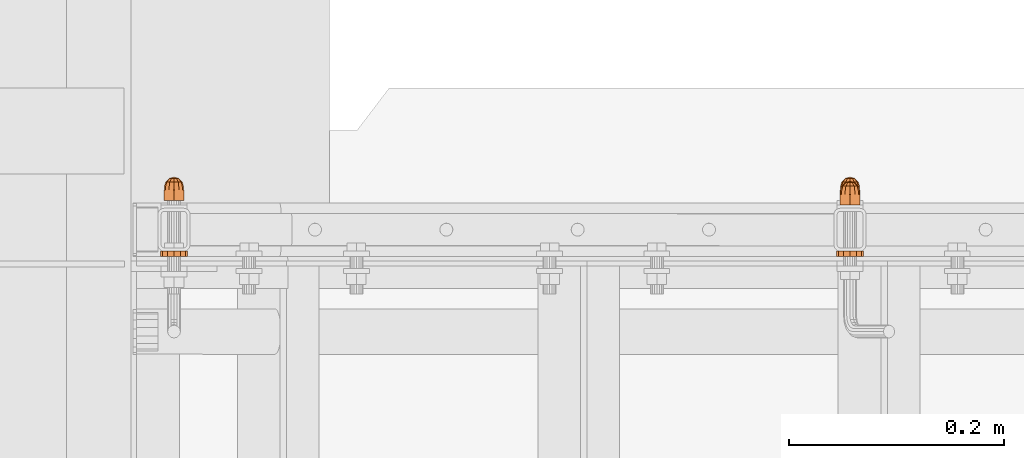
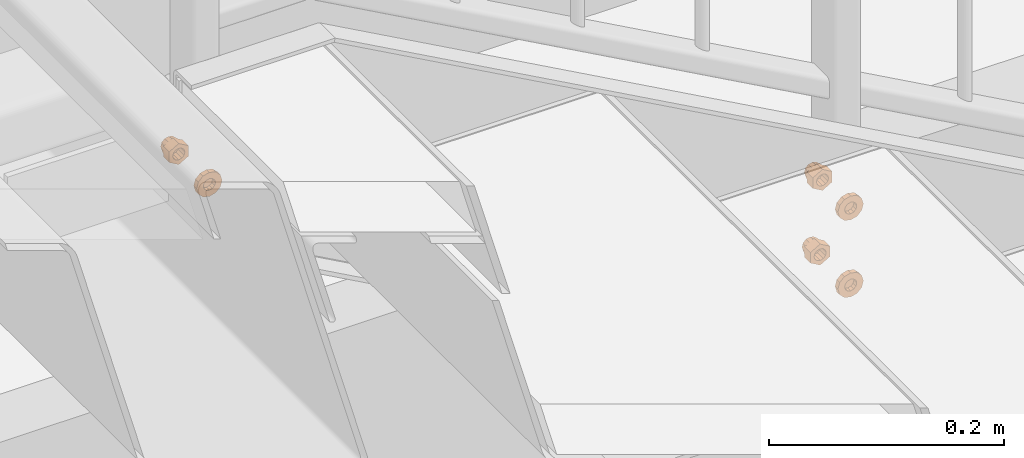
# One storey, part 104 of 116: 6 proxies.
"""IFC2X3 building model written with IfcOpenShell, lengths in millimetres."""

from ifc_helpers import new_model, entity, si_unit, converted_unit, origin_with_axes, place, context, project, spatial, faceted_brep, material, element, save


model = new_model("IFC2X3")

# Units and contexts
model_context = context("Model", 3, precision=1e-09, world=origin_with_axes())
ifc_project = project(units=[si_unit("LENGTHUNIT", "METRE", prefix="MILLI"), si_unit("AREAUNIT", "SQUARE_METRE"), si_unit("VOLUMEUNIT", "CUBIC_METRE"), converted_unit("PLANEANGLEUNIT", "DEGREE", entity("IfcPlaneAngleMeasure", 0.01745329), si_unit("PLANEANGLEUNIT", "RADIAN"), dimensions=[0, 0, 0, 0, 0, 0, 0])], contexts=[model_context])

# Site, building, storey
site_placement = place(None, origin_with_axes())
site = spatial("IfcSite", under=ifc_project, at=site_placement, Name="Site", CompositionType="ELEMENT")
building_placement = place(site_placement, origin_with_axes())
building = spatial("IfcBuilding", under=site, at=building_placement, Name="Struktur 1", CompositionType="ELEMENT")
storey_placement = place(building_placement, origin_with_axes())
storey = spatial("IfcBuildingStorey", under=building, at=storey_placement, Name="Default Storey", CompositionType="ELEMENT", Elevation=0.0)

# Proxies
ifc_material = material(Name="Kein")
proxy_1_placement = place(None, origin_with_axes())
element("IfcBuildingElementProxy", 1, at=proxy_1_placement, inside=storey, material=ifc_material, ObjectType="-", context=model_context, shape_type="Brep", body=[
    faceted_brep([(58891.049134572, 10488.357883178, -378.0), (58891.049134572, 10478.357883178, -378.0), (58891.852982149, 10478.357883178, -381.0), (58891.852982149, 10488.357883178, -381.0), (58894.049134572, 10478.357883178, -383.196152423), (58894.049134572, 10488.357883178, -383.196152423), (58891.852982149, 10488.357883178, -375.0), (58891.852982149, 10478.357883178, -375.0), (58887.569265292, 10478.357883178, -372.526794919), (58887.569265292, 10478.357883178, -383.473205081), (58897.049134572, 10478.357883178, -388.946410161), (58906.529003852, 10478.357883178, -383.473205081), (58906.529003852, 10478.357883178, -372.526794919), (58897.049134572, 10478.357883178, -367.053589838), (58894.049134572, 10478.357883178, -372.803847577), (58897.049134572, 10478.357883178, -372.0), (58900.049134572, 10478.357883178, -372.803847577), (58902.245286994, 10478.357883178, -375.0), (58903.049134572, 10478.357883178, -378.0), (58902.245286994, 10478.357883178, -381.0), (58900.049134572, 10478.357883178, -383.196152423), (58897.049134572, 10478.357883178, -384.0), (58887.569265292, 10488.357883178, -372.526794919), (58897.049134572, 10488.357883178, -367.053589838), (58906.529003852, 10488.357883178, -372.526794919), (58906.529003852, 10488.357883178, -383.473205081), (58897.049134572, 10488.357883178, -388.946410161), (58887.569265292, 10488.357883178, -383.473205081), (58894.049134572, 10488.357883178, -372.803847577), (58897.049134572, 10488.357883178, -384.0), (58897.049134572, 10488.357883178, -372.0), (58900.049134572, 10488.357883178, -383.196152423), (58900.049134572, 10488.357883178, -372.803847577), (58902.245286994, 10488.357883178, -381.0), (58902.245286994, 10488.357883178, -375.0), (58903.049134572, 10488.357883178, -378.0)], [[[0, 1, 2, 3]], [[3, 2, 4, 5]], [[1, 0, 6, 7]], [[8, 9, 10, 11, 12, 13], [7, 14, 15, 16, 17, 18, 19, 20, 21, 4, 2, 1]], [[22, 23, 24, 25, 26, 27]], [[7, 6, 28, 14]], [[22, 27, 9, 8]], [[5, 4, 21, 29]], [[10, 9, 27, 26]], [[14, 28, 30, 15]], [[23, 22, 8, 13]], [[29, 21, 20, 31]], [[11, 10, 26, 25]], [[15, 30, 32, 16]], [[24, 23, 13, 12]], [[31, 20, 19, 33]], [[25, 24, 12, 11]], [[16, 32, 34, 17]], [[33, 19, 18, 35]], [[17, 34, 35, 18]]]),
    faceted_brep([(58897.049134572, 10491.357883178, -369.0), (58897.049134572, 10488.357883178, -369.0), (58901.549134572, 10488.357883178, -370.205771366), (58901.549134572, 10491.357883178, -370.205771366), (58892.549134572, 10491.357883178, -370.205771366), (58892.549134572, 10488.357883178, -370.205771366), (58892.549134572, 10491.357883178, -385.794228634), (58889.254905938, 10491.357883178, -382.5), (58888.049134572, 10491.357883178, -378.0), (58889.254905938, 10491.357883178, -373.5), (58904.843363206, 10491.357883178, -373.5), (58906.049134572, 10491.357883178, -378.0), (58904.843363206, 10491.357883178, -382.5), (58901.549134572, 10491.357883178, -385.794228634), (58897.049134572, 10491.357883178, -387.0), (58901.549134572, 10488.357883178, -385.794228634), (58904.843363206, 10488.357883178, -382.5), (58906.049134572, 10488.357883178, -378.0), (58904.843363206, 10488.357883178, -373.5), (58889.254905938, 10488.357883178, -373.5), (58888.049134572, 10488.357883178, -378.0), (58889.254905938, 10488.357883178, -382.5), (58892.549134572, 10488.357883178, -385.794228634), (58897.049134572, 10488.357883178, -387.0)], [[[0, 1, 2, 3]], [[1, 0, 4, 5]], [[6, 7, 8, 9, 4, 0, 3, 10, 11, 12, 13, 14]], [[15, 16, 17, 18, 2, 1, 5, 19, 20, 21, 22, 23]], [[3, 2, 18, 10]], [[5, 4, 9, 19]], [[10, 18, 17, 11]], [[19, 9, 8, 20]], [[22, 6, 14, 23]], [[7, 21, 20, 8]], [[6, 22, 21, 7]], [[11, 17, 16, 12]], [[23, 14, 13, 15]], [[12, 16, 15, 13]]]),
    faceted_brep([(58890.299134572, 10495.857883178, -374.102885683), (58889.254905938, 10491.357883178, -373.5), (58892.549134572, 10491.357883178, -370.205771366), (58893.152020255, 10495.857883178, -371.25), (58901.549134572, 10491.357883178, -385.794228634), (58904.843363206, 10491.357883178, -382.5), (58906.049134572, 10491.357883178, -378.0), (58904.843363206, 10491.357883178, -373.5), (58901.549134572, 10491.357883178, -370.205771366), (58897.049134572, 10491.357883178, -369.0), (58888.049134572, 10491.357883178, -378.0), (58889.254905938, 10491.357883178, -382.5), (58892.549134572, 10491.357883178, -385.794228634), (58897.049134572, 10491.357883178, -387.0), (58897.049134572, 10495.857883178, -370.205771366), (58892.549134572, 10499.152111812, -378.0), (58889.254905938, 10495.857883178, -378.0), (58893.152020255, 10499.152111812, -375.75), (58900.946248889, 10495.857883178, -371.25), (58894.799134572, 10499.152111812, -374.102885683), (58893.152020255, 10499.152111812, -380.25), (58890.299134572, 10495.857883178, -381.897114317), (58897.049134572, 10499.152111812, -373.5), (58897.049134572, 10500.357883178, -378.0), (58894.799134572, 10499.152111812, -381.897114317), (58893.152020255, 10495.857883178, -384.75), (58897.049134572, 10495.857883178, -385.794228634), (58903.799134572, 10495.857883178, -374.102885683), (58899.299134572, 10499.152111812, -374.102885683), (58897.049134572, 10499.152111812, -382.5), (58900.946248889, 10495.857883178, -384.75), (58899.299134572, 10499.152111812, -381.897114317), (58904.843363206, 10495.857883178, -378.0), (58900.946248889, 10499.152111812, -375.75), (58903.799134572, 10495.857883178, -381.897114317), (58900.946248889, 10499.152111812, -380.25), (58901.549134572, 10499.152111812, -378.0)], [[[0, 1, 2, 3]], [[4, 5, 6, 7, 8, 9, 2, 1, 10, 11, 12, 13]], [[3, 2, 9, 14]], [[15, 16, 0, 17]], [[1, 0, 16, 10]], [[14, 9, 8, 18]], [[17, 0, 3, 19]], [[16, 15, 20, 21]], [[19, 3, 14, 22]], [[17, 23, 15]], [[24, 25, 21, 20]], [[15, 23, 20]], [[12, 25, 26, 13]], [[11, 21, 25, 12]], [[10, 16, 21, 11]], [[18, 8, 7, 27]], [[22, 14, 18, 28]], [[19, 23, 17]], [[29, 26, 25, 24]], [[20, 23, 24]], [[22, 23, 19]], [[13, 26, 30, 4]], [[26, 29, 31, 30]], [[24, 23, 29]], [[27, 7, 6, 32]], [[28, 18, 27, 33]], [[28, 23, 22]], [[29, 23, 31]], [[33, 23, 28]], [[4, 30, 34, 5]], [[30, 31, 35, 34]], [[31, 23, 35]], [[32, 6, 5, 34]], [[33, 27, 32, 36]], [[36, 23, 33]], [[35, 23, 36]], [[34, 35, 36, 32]]]),
])
proxy_2_placement = place(None, origin_with_axes())
element("IfcBuildingElementProxy", 2, at=proxy_2_placement, inside=storey, material=ifc_material, ObjectType="-", context=model_context, shape_type="Brep", body=[
    faceted_brep([(58891.049134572, 10492.357883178, -458.0), (58891.049134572, 10482.357883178, -458.0), (58891.852982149, 10482.357883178, -461.0), (58891.852982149, 10492.357883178, -461.0), (58894.049134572, 10482.357883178, -463.196152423), (58894.049134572, 10492.357883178, -463.196152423), (58891.852982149, 10492.357883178, -455.0), (58891.852982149, 10482.357883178, -455.0), (58887.569265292, 10482.357883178, -452.526794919), (58887.569265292, 10482.357883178, -463.473205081), (58897.049134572, 10482.357883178, -468.946410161), (58906.529003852, 10482.357883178, -463.473205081), (58906.529003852, 10482.357883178, -452.526794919), (58897.049134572, 10482.357883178, -447.053589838), (58894.049134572, 10482.357883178, -452.803847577), (58897.049134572, 10482.357883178, -452.0), (58900.049134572, 10482.357883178, -452.803847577), (58902.245286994, 10482.357883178, -455.0), (58903.049134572, 10482.357883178, -458.0), (58902.245286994, 10482.357883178, -461.0), (58900.049134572, 10482.357883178, -463.196152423), (58897.049134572, 10482.357883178, -464.0), (58887.569265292, 10492.357883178, -452.526794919), (58897.049134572, 10492.357883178, -447.053589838), (58906.529003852, 10492.357883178, -452.526794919), (58906.529003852, 10492.357883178, -463.473205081), (58897.049134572, 10492.357883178, -468.946410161), (58887.569265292, 10492.357883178, -463.473205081), (58894.049134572, 10492.357883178, -452.803847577), (58897.049134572, 10492.357883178, -464.0), (58897.049134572, 10492.357883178, -452.0), (58900.049134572, 10492.357883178, -463.196152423), (58900.049134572, 10492.357883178, -452.803847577), (58902.245286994, 10492.357883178, -461.0), (58902.245286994, 10492.357883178, -455.0), (58903.049134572, 10492.357883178, -458.0)], [[[0, 1, 2, 3]], [[3, 2, 4, 5]], [[1, 0, 6, 7]], [[8, 9, 10, 11, 12, 13], [7, 14, 15, 16, 17, 18, 19, 20, 21, 4, 2, 1]], [[22, 23, 24, 25, 26, 27]], [[7, 6, 28, 14]], [[22, 27, 9, 8]], [[5, 4, 21, 29]], [[10, 9, 27, 26]], [[14, 28, 30, 15]], [[23, 22, 8, 13]], [[29, 21, 20, 31]], [[11, 10, 26, 25]], [[15, 30, 32, 16]], [[24, 23, 13, 12]], [[31, 20, 19, 33]], [[25, 24, 12, 11]], [[16, 32, 34, 17]], [[33, 19, 18, 35]], [[17, 34, 35, 18]]]),
    faceted_brep([(58897.049134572, 10495.357883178, -449.0), (58897.049134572, 10492.357883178, -449.0), (58901.549134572, 10492.357883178, -450.205771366), (58901.549134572, 10495.357883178, -450.205771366), (58892.549134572, 10495.357883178, -450.205771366), (58892.549134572, 10492.357883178, -450.205771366), (58892.549134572, 10495.357883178, -465.794228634), (58889.254905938, 10495.357883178, -462.5), (58888.049134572, 10495.357883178, -458.0), (58889.254905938, 10495.357883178, -453.5), (58904.843363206, 10495.357883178, -453.5), (58906.049134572, 10495.357883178, -458.0), (58904.843363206, 10495.357883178, -462.5), (58901.549134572, 10495.357883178, -465.794228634), (58897.049134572, 10495.357883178, -467.0), (58901.549134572, 10492.357883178, -465.794228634), (58904.843363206, 10492.357883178, -462.5), (58906.049134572, 10492.357883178, -458.0), (58904.843363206, 10492.357883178, -453.5), (58889.254905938, 10492.357883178, -453.5), (58888.049134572, 10492.357883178, -458.0), (58889.254905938, 10492.357883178, -462.5), (58892.549134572, 10492.357883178, -465.794228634), (58897.049134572, 10492.357883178, -467.0)], [[[0, 1, 2, 3]], [[1, 0, 4, 5]], [[6, 7, 8, 9, 4, 0, 3, 10, 11, 12, 13, 14]], [[15, 16, 17, 18, 2, 1, 5, 19, 20, 21, 22, 23]], [[3, 2, 18, 10]], [[5, 4, 9, 19]], [[10, 18, 17, 11]], [[19, 9, 8, 20]], [[22, 6, 14, 23]], [[7, 21, 20, 8]], [[6, 22, 21, 7]], [[11, 17, 16, 12]], [[23, 14, 13, 15]], [[12, 16, 15, 13]]]),
    faceted_brep([(58890.299134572, 10499.857883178, -454.102885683), (58889.254905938, 10495.357883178, -453.5), (58892.549134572, 10495.357883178, -450.205771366), (58893.152020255, 10499.857883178, -451.25), (58901.549134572, 10495.357883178, -465.794228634), (58904.843363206, 10495.357883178, -462.5), (58906.049134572, 10495.357883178, -458.0), (58904.843363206, 10495.357883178, -453.5), (58901.549134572, 10495.357883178, -450.205771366), (58897.049134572, 10495.357883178, -449.0), (58888.049134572, 10495.357883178, -458.0), (58889.254905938, 10495.357883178, -462.5), (58892.549134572, 10495.357883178, -465.794228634), (58897.049134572, 10495.357883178, -467.0), (58897.049134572, 10499.857883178, -450.205771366), (58892.549134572, 10503.152111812, -458.0), (58889.254905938, 10499.857883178, -458.0), (58893.152020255, 10503.152111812, -455.75), (58900.946248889, 10499.857883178, -451.25), (58894.799134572, 10503.152111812, -454.102885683), (58893.152020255, 10503.152111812, -460.25), (58890.299134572, 10499.857883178, -461.897114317), (58897.049134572, 10503.152111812, -453.5), (58897.049134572, 10504.357883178, -458.0), (58894.799134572, 10503.152111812, -461.897114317), (58893.152020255, 10499.857883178, -464.75), (58897.049134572, 10499.857883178, -465.794228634), (58903.799134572, 10499.857883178, -454.102885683), (58899.299134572, 10503.152111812, -454.102885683), (58897.049134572, 10503.152111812, -462.5), (58900.946248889, 10499.857883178, -464.75), (58899.299134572, 10503.152111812, -461.897114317), (58904.843363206, 10499.857883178, -458.0), (58900.946248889, 10503.152111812, -455.75), (58903.799134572, 10499.857883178, -461.897114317), (58900.946248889, 10503.152111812, -460.25), (58901.549134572, 10503.152111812, -458.0)], [[[0, 1, 2, 3]], [[4, 5, 6, 7, 8, 9, 2, 1, 10, 11, 12, 13]], [[3, 2, 9, 14]], [[15, 16, 0, 17]], [[1, 0, 16, 10]], [[14, 9, 8, 18]], [[17, 0, 3, 19]], [[16, 15, 20, 21]], [[19, 3, 14, 22]], [[17, 23, 15]], [[24, 25, 21, 20]], [[15, 23, 20]], [[12, 25, 26, 13]], [[11, 21, 25, 12]], [[10, 16, 21, 11]], [[18, 8, 7, 27]], [[22, 14, 18, 28]], [[19, 23, 17]], [[29, 26, 25, 24]], [[20, 23, 24]], [[22, 23, 19]], [[13, 26, 30, 4]], [[26, 29, 31, 30]], [[24, 23, 29]], [[27, 7, 6, 32]], [[28, 18, 27, 33]], [[28, 23, 22]], [[29, 23, 31]], [[33, 23, 28]], [[4, 30, 34, 5]], [[30, 31, 35, 34]], [[31, 23, 35]], [[32, 6, 5, 34]], [[33, 27, 32, 36]], [[36, 23, 33]], [[35, 23, 36]], [[34, 35, 36, 32]]]),
])
proxy_3_placement = place(None, origin_with_axes())
element("IfcBuildingElementProxy", 3, at=proxy_3_placement, inside=storey, material=ifc_material, ObjectType="-", context=model_context, shape_type="Brep", body=[
    faceted_brep([(58894.049134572, 10435.357883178, -463.196152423), (58897.049134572, 10435.357883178, -464.0), (58900.049134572, 10435.357883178, -463.196152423), (58902.245286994, 10435.357883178, -461.0), (58903.049134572, 10435.357883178, -458.0), (58902.245286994, 10435.357883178, -455.0), (58900.049134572, 10435.357883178, -452.803847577), (58897.049134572, 10435.357883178, -452.0), (58894.049134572, 10435.357883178, -452.803847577), (58891.852982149, 10435.357883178, -455.0), (58891.049134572, 10435.357883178, -458.0), (58891.852982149, 10435.357883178, -461.0), (58886.223817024, 10430.357883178, -464.25), (58886.223817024, 10435.357883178, -464.25), (58890.799134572, 10435.357883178, -468.825317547), (58890.799134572, 10430.357883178, -468.825317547), (58897.049134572, 10430.357883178, -470.5), (58903.299134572, 10430.357883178, -468.825317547), (58907.874452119, 10430.357883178, -464.25), (58909.549134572, 10430.357883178, -458.0), (58907.874452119, 10430.357883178, -451.75), (58903.299134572, 10430.357883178, -447.174682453), (58897.049134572, 10430.357883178, -445.5), (58890.799134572, 10430.357883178, -447.174682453), (58886.223817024, 10430.357883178, -451.75), (58884.549134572, 10430.357883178, -458.0), (58891.049134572, 10430.357883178, -458.0), (58891.852982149, 10430.357883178, -455.0), (58894.049134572, 10430.357883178, -452.803847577), (58897.049134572, 10430.357883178, -452.0), (58900.049134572, 10430.357883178, -452.803847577), (58902.245286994, 10430.357883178, -455.0), (58903.049134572, 10430.357883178, -458.0), (58902.245286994, 10430.357883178, -461.0), (58900.049134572, 10430.357883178, -463.196152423), (58897.049134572, 10430.357883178, -464.0), (58894.049134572, 10430.357883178, -463.196152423), (58891.852982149, 10430.357883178, -461.0), (58884.549134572, 10435.357883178, -458.0), (58897.049134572, 10435.357883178, -470.5), (58886.223817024, 10435.357883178, -451.75), (58903.299134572, 10435.357883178, -468.825317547), (58890.799134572, 10435.357883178, -447.174682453), (58907.874452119, 10435.357883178, -464.25), (58897.049134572, 10435.357883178, -445.5), (58909.549134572, 10435.357883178, -458.0), (58903.299134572, 10435.357883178, -447.174682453), (58907.874452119, 10435.357883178, -451.75)], [[[0, 1, 2, 3, 4, 5, 6, 7, 8, 9, 10, 11]], [[12, 13, 14, 15]], [[12, 15, 16, 17, 18, 19, 20, 21, 22, 23, 24, 25], [26, 27, 28, 29, 30, 31, 32, 33, 34, 35, 36, 37]], [[11, 37, 36, 0]], [[13, 12, 25, 38]], [[37, 11, 10, 26]], [[0, 36, 35, 1]], [[15, 14, 39, 16]], [[38, 25, 24, 40]], [[26, 10, 9, 27]], [[1, 35, 34, 2]], [[16, 39, 41, 17]], [[40, 24, 23, 42]], [[27, 9, 8, 28]], [[33, 3, 2, 34]], [[17, 41, 43, 18]], [[3, 33, 32, 4]], [[42, 23, 22, 44]], [[28, 8, 7, 29]], [[31, 5, 4, 32]], [[18, 43, 45, 19]], [[6, 30, 29, 7]], [[5, 31, 30, 6]], [[44, 22, 21, 46]], [[19, 45, 47, 20]], [[46, 21, 20, 47]]]),
])
proxy_4_placement = place(None, origin_with_axes())
element("IfcBuildingElementProxy", 4, at=proxy_4_placement, inside=storey, material=ifc_material, ObjectType="-", context=model_context, shape_type="Brep", body=[
    faceted_brep([(58894.049134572, 10435.357883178, -383.196152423), (58897.049134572, 10435.357883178, -384.0), (58900.049134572, 10435.357883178, -383.196152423), (58902.245286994, 10435.357883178, -381.0), (58903.049134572, 10435.357883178, -378.0), (58902.245286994, 10435.357883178, -375.0), (58900.049134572, 10435.357883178, -372.803847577), (58897.049134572, 10435.357883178, -372.0), (58894.049134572, 10435.357883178, -372.803847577), (58891.852982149, 10435.357883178, -375.0), (58891.049134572, 10435.357883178, -378.0), (58891.852982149, 10435.357883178, -381.0), (58886.223817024, 10430.357883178, -384.25), (58886.223817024, 10435.357883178, -384.25), (58890.799134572, 10435.357883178, -388.825317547), (58890.799134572, 10430.357883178, -388.825317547), (58897.049134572, 10430.357883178, -390.5), (58903.299134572, 10430.357883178, -388.825317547), (58907.874452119, 10430.357883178, -384.25), (58909.549134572, 10430.357883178, -378.0), (58907.874452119, 10430.357883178, -371.75), (58903.299134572, 10430.357883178, -367.174682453), (58897.049134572, 10430.357883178, -365.5), (58890.799134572, 10430.357883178, -367.174682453), (58886.223817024, 10430.357883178, -371.75), (58884.549134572, 10430.357883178, -378.0), (58891.049134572, 10430.357883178, -378.0), (58891.852982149, 10430.357883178, -375.0), (58894.049134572, 10430.357883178, -372.803847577), (58897.049134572, 10430.357883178, -372.0), (58900.049134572, 10430.357883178, -372.803847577), (58902.245286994, 10430.357883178, -375.0), (58903.049134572, 10430.357883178, -378.0), (58902.245286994, 10430.357883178, -381.0), (58900.049134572, 10430.357883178, -383.196152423), (58897.049134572, 10430.357883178, -384.0), (58894.049134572, 10430.357883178, -383.196152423), (58891.852982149, 10430.357883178, -381.0), (58884.549134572, 10435.357883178, -378.0), (58897.049134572, 10435.357883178, -390.5), (58886.223817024, 10435.357883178, -371.75), (58903.299134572, 10435.357883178, -388.825317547), (58890.799134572, 10435.357883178, -367.174682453), (58907.874452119, 10435.357883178, -384.25), (58897.049134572, 10435.357883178, -365.5), (58909.549134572, 10435.357883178, -378.0), (58903.299134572, 10435.357883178, -367.174682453), (58907.874452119, 10435.357883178, -371.75)], [[[0, 1, 2, 3, 4, 5, 6, 7, 8, 9, 10, 11]], [[12, 13, 14, 15]], [[12, 15, 16, 17, 18, 19, 20, 21, 22, 23, 24, 25], [26, 27, 28, 29, 30, 31, 32, 33, 34, 35, 36, 37]], [[11, 37, 36, 0]], [[13, 12, 25, 38]], [[37, 11, 10, 26]], [[0, 36, 35, 1]], [[15, 14, 39, 16]], [[38, 25, 24, 40]], [[26, 10, 9, 27]], [[1, 35, 34, 2]], [[16, 39, 41, 17]], [[40, 24, 23, 42]], [[27, 9, 8, 28]], [[33, 3, 2, 34]], [[17, 41, 43, 18]], [[3, 33, 32, 4]], [[42, 23, 22, 44]], [[28, 8, 7, 29]], [[31, 5, 4, 32]], [[18, 43, 45, 19]], [[6, 30, 29, 7]], [[5, 31, 30, 6]], [[44, 22, 21, 46]], [[19, 45, 47, 20]], [[46, 21, 20, 47]]]),
])
proxy_5_placement = place(None, origin_with_axes())
element("IfcBuildingElementProxy", 5, at=proxy_5_placement, inside=storey, material=ifc_material, ObjectType="-", context=model_context, shape_type="Brep", body=[
    faceted_brep([(58261.049134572, 10492.357883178, -133.000000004), (58261.049134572, 10482.357883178, -133.000000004), (58261.852982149, 10482.357883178, -136.000000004), (58261.852982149, 10492.357883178, -136.000000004), (58264.049134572, 10482.357883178, -138.196152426), (58264.049134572, 10492.357883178, -138.196152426), (58261.852982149, 10492.357883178, -130.000000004), (58261.852982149, 10482.357883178, -130.000000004), (58257.569265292, 10482.357883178, -127.526794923), (58257.569265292, 10482.357883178, -138.473205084), (58267.049134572, 10482.357883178, -143.946410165), (58276.529003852, 10482.357883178, -138.473205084), (58276.529003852, 10482.357883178, -127.526794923), (58267.049134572, 10482.357883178, -122.053589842), (58264.049134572, 10482.357883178, -127.803847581), (58267.049134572, 10482.357883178, -127.000000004), (58270.049134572, 10482.357883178, -127.803847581), (58272.245286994, 10482.357883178, -130.000000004), (58273.049134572, 10482.357883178, -133.000000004), (58272.245286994, 10482.357883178, -136.000000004), (58270.049134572, 10482.357883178, -138.196152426), (58267.049134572, 10482.357883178, -139.000000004), (58257.569265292, 10492.357883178, -127.526794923), (58267.049134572, 10492.357883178, -122.053589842), (58276.529003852, 10492.357883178, -127.526794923), (58276.529003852, 10492.357883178, -138.473205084), (58267.049134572, 10492.357883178, -143.946410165), (58257.569265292, 10492.357883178, -138.473205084), (58264.049134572, 10492.357883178, -127.803847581), (58267.049134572, 10492.357883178, -139.000000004), (58267.049134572, 10492.357883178, -127.000000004), (58270.049134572, 10492.357883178, -138.196152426), (58270.049134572, 10492.357883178, -127.803847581), (58272.245286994, 10492.357883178, -136.000000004), (58272.245286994, 10492.357883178, -130.000000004), (58273.049134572, 10492.357883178, -133.000000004)], [[[0, 1, 2, 3]], [[3, 2, 4, 5]], [[1, 0, 6, 7]], [[8, 9, 10, 11, 12, 13], [7, 14, 15, 16, 17, 18, 19, 20, 21, 4, 2, 1]], [[22, 23, 24, 25, 26, 27]], [[7, 6, 28, 14]], [[22, 27, 9, 8]], [[5, 4, 21, 29]], [[10, 9, 27, 26]], [[14, 28, 30, 15]], [[23, 22, 8, 13]], [[29, 21, 20, 31]], [[11, 10, 26, 25]], [[15, 30, 32, 16]], [[24, 23, 13, 12]], [[31, 20, 19, 33]], [[25, 24, 12, 11]], [[16, 32, 34, 17]], [[33, 19, 18, 35]], [[17, 34, 35, 18]]]),
    faceted_brep([(58267.049134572, 10495.357883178, -124.000000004), (58267.049134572, 10492.357883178, -124.000000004), (58271.549134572, 10492.357883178, -125.205771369), (58271.549134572, 10495.357883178, -125.205771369), (58262.549134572, 10495.357883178, -125.205771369), (58262.549134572, 10492.357883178, -125.205771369), (58262.549134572, 10495.357883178, -140.794228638), (58259.254905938, 10495.357883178, -137.500000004), (58258.049134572, 10495.357883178, -133.000000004), (58259.254905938, 10495.357883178, -128.500000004), (58274.843363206, 10495.357883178, -128.500000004), (58276.049134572, 10495.357883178, -133.000000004), (58274.843363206, 10495.357883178, -137.500000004), (58271.549134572, 10495.357883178, -140.794228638), (58267.049134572, 10495.357883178, -142.000000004), (58271.549134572, 10492.357883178, -140.794228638), (58274.843363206, 10492.357883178, -137.500000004), (58276.049134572, 10492.357883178, -133.000000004), (58274.843363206, 10492.357883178, -128.500000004), (58259.254905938, 10492.357883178, -128.500000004), (58258.049134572, 10492.357883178, -133.000000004), (58259.254905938, 10492.357883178, -137.500000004), (58262.549134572, 10492.357883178, -140.794228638), (58267.049134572, 10492.357883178, -142.000000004)], [[[0, 1, 2, 3]], [[1, 0, 4, 5]], [[6, 7, 8, 9, 4, 0, 3, 10, 11, 12, 13, 14]], [[15, 16, 17, 18, 2, 1, 5, 19, 20, 21, 22, 23]], [[3, 2, 18, 10]], [[5, 4, 9, 19]], [[10, 18, 17, 11]], [[19, 9, 8, 20]], [[22, 6, 14, 23]], [[7, 21, 20, 8]], [[6, 22, 21, 7]], [[11, 17, 16, 12]], [[23, 14, 13, 15]], [[12, 16, 15, 13]]]),
    faceted_brep([(58260.299134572, 10499.857883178, -129.102885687), (58259.254905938, 10495.357883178, -128.500000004), (58262.549134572, 10495.357883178, -125.205771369), (58263.152020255, 10499.857883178, -126.250000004), (58271.549134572, 10495.357883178, -140.794228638), (58274.843363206, 10495.357883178, -137.500000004), (58276.049134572, 10495.357883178, -133.000000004), (58274.843363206, 10495.357883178, -128.500000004), (58271.549134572, 10495.357883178, -125.205771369), (58267.049134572, 10495.357883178, -124.000000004), (58258.049134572, 10495.357883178, -133.000000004), (58259.254905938, 10495.357883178, -137.500000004), (58262.549134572, 10495.357883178, -140.794228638), (58267.049134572, 10495.357883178, -142.000000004), (58267.049134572, 10499.857883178, -125.205771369), (58262.549134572, 10503.152111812, -133.000000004), (58259.254905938, 10499.857883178, -133.000000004), (58263.152020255, 10503.152111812, -130.750000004), (58270.946248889, 10499.857883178, -126.250000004), (58264.799134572, 10503.152111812, -129.102885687), (58263.152020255, 10503.152111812, -135.250000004), (58260.299134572, 10499.857883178, -136.897114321), (58267.049134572, 10503.152111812, -128.500000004), (58267.049134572, 10504.357883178, -133.000000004), (58264.799134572, 10503.152111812, -136.897114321), (58263.152020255, 10499.857883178, -139.750000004), (58267.049134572, 10499.857883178, -140.794228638), (58273.799134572, 10499.857883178, -129.102885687), (58269.299134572, 10503.152111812, -129.102885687), (58267.049134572, 10503.152111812, -137.500000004), (58270.946248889, 10499.857883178, -139.750000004), (58269.299134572, 10503.152111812, -136.897114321), (58274.843363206, 10499.857883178, -133.000000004), (58270.946248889, 10503.152111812, -130.750000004), (58273.799134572, 10499.857883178, -136.897114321), (58270.946248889, 10503.152111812, -135.250000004), (58271.549134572, 10503.152111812, -133.000000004)], [[[0, 1, 2, 3]], [[4, 5, 6, 7, 8, 9, 2, 1, 10, 11, 12, 13]], [[3, 2, 9, 14]], [[15, 16, 0, 17]], [[1, 0, 16, 10]], [[14, 9, 8, 18]], [[17, 0, 3, 19]], [[16, 15, 20, 21]], [[19, 3, 14, 22]], [[17, 23, 15]], [[24, 25, 21, 20]], [[15, 23, 20]], [[12, 25, 26, 13]], [[11, 21, 25, 12]], [[10, 16, 21, 11]], [[18, 8, 7, 27]], [[22, 14, 18, 28]], [[19, 23, 17]], [[29, 26, 25, 24]], [[20, 23, 24]], [[22, 23, 19]], [[13, 26, 30, 4]], [[26, 29, 31, 30]], [[24, 23, 29]], [[27, 7, 6, 32]], [[28, 18, 27, 33]], [[28, 23, 22]], [[29, 23, 31]], [[33, 23, 28]], [[4, 30, 34, 5]], [[30, 31, 35, 34]], [[31, 23, 35]], [[32, 6, 5, 34]], [[33, 27, 32, 36]], [[36, 23, 33]], [[35, 23, 36]], [[34, 35, 36, 32]]]),
])
proxy_6_placement = place(None, origin_with_axes())
element("IfcBuildingElementProxy", 6, at=proxy_6_placement, inside=storey, material=ifc_material, ObjectType="-", context=model_context, shape_type="Brep", body=[
    faceted_brep([(58264.049134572, 10435.357883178, -138.196152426), (58267.049134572, 10435.357883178, -139.000000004), (58270.049134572, 10435.357883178, -138.196152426), (58272.245286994, 10435.357883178, -136.000000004), (58273.049134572, 10435.357883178, -133.000000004), (58272.245286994, 10435.357883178, -130.000000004), (58270.049134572, 10435.357883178, -127.803847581), (58267.049134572, 10435.357883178, -127.000000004), (58264.049134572, 10435.357883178, -127.803847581), (58261.852982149, 10435.357883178, -130.000000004), (58261.049134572, 10435.357883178, -133.000000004), (58261.852982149, 10435.357883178, -136.000000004), (58256.223817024, 10430.357883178, -139.250000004), (58256.223817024, 10435.357883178, -139.250000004), (58260.799134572, 10435.357883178, -143.825317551), (58260.799134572, 10430.357883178, -143.825317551), (58267.049134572, 10430.357883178, -145.500000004), (58273.299134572, 10430.357883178, -143.825317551), (58277.874452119, 10430.357883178, -139.250000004), (58279.549134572, 10430.357883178, -133.000000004), (58277.874452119, 10430.357883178, -126.750000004), (58273.299134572, 10430.357883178, -122.174682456), (58267.049134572, 10430.357883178, -120.500000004), (58260.799134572, 10430.357883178, -122.174682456), (58256.223817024, 10430.357883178, -126.750000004), (58254.549134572, 10430.357883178, -133.000000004), (58261.049134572, 10430.357883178, -133.000000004), (58261.852982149, 10430.357883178, -130.000000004), (58264.049134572, 10430.357883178, -127.803847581), (58267.049134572, 10430.357883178, -127.000000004), (58270.049134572, 10430.357883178, -127.803847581), (58272.245286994, 10430.357883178, -130.000000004), (58273.049134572, 10430.357883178, -133.000000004), (58272.245286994, 10430.357883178, -136.000000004), (58270.049134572, 10430.357883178, -138.196152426), (58267.049134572, 10430.357883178, -139.000000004), (58264.049134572, 10430.357883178, -138.196152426), (58261.852982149, 10430.357883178, -136.000000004), (58254.549134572, 10435.357883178, -133.000000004), (58267.049134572, 10435.357883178, -145.500000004), (58256.223817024, 10435.357883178, -126.750000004), (58273.299134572, 10435.357883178, -143.825317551), (58260.799134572, 10435.357883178, -122.174682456), (58277.874452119, 10435.357883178, -139.250000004), (58267.049134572, 10435.357883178, -120.500000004), (58279.549134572, 10435.357883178, -133.000000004), (58273.299134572, 10435.357883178, -122.174682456), (58277.874452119, 10435.357883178, -126.750000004)], [[[0, 1, 2, 3, 4, 5, 6, 7, 8, 9, 10, 11]], [[12, 13, 14, 15]], [[12, 15, 16, 17, 18, 19, 20, 21, 22, 23, 24, 25], [26, 27, 28, 29, 30, 31, 32, 33, 34, 35, 36, 37]], [[11, 37, 36, 0]], [[13, 12, 25, 38]], [[37, 11, 10, 26]], [[0, 36, 35, 1]], [[15, 14, 39, 16]], [[38, 25, 24, 40]], [[26, 10, 9, 27]], [[1, 35, 34, 2]], [[16, 39, 41, 17]], [[40, 24, 23, 42]], [[27, 9, 8, 28]], [[33, 3, 2, 34]], [[17, 41, 43, 18]], [[3, 33, 32, 4]], [[42, 23, 22, 44]], [[28, 8, 7, 29]], [[31, 5, 4, 32]], [[18, 43, 45, 19]], [[6, 30, 29, 7]], [[5, 31, 30, 6]], [[44, 22, 21, 46]], [[19, 45, 47, 20]], [[46, 21, 20, 47]]]),
])

save(model, "model.ifc")
